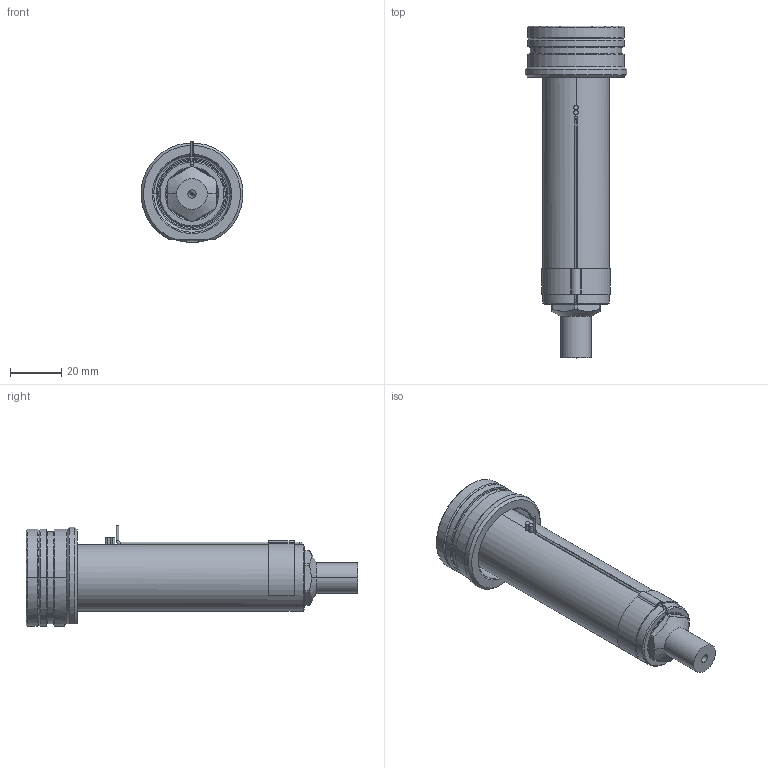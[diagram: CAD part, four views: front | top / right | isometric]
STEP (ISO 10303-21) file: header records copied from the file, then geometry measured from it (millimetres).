
FILE_DESCRIPTION((''),'2;1');
FILE_NAME('EO08_PG-FBE_STD_100_SW','2024-02-19T11:54:28',('sundharh'),(''),'CREO PARAMETRIC BY PTC INC, 2023154','CREO PARAMETRIC BY PTC INC, 2023154','');
FILE_SCHEMA(('CONFIG_CONTROL_DESIGN'));
Length unit declared in the file: millimetre
Products named in the file (1): EO08_PG-FBE_STD_100_SW
Bounding box: 39.88 x 130 x 39.52 mm (x, y, z)
Volume: 65276.2 mm3; surface area: 20200.1 mm2
Topology: 1 solids, 1 shells, 211 faces, 558 edges, 345 vertices
Faces by surface type: cylinder 81, plane 59, cone 45, torus 19, bspline 4, sphere 3
Entity records: 8096 total; most frequent: CARTESIAN_POINT 2740, DIRECTION 1182, ORIENTED_EDGE 1108, EDGE_CURVE 554, AXIS2_PLACEMENT_3D 494, VERTEX_POINT 345, CIRCLE 287, EDGE_LOOP 229
